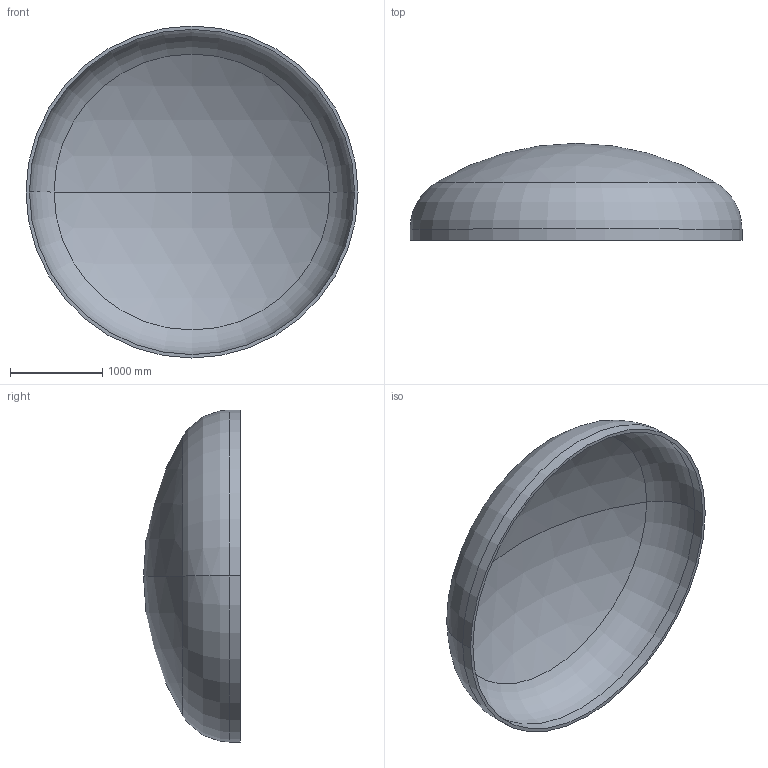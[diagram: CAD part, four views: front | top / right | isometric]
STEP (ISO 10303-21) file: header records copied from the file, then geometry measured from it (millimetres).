
FILE_DESCRIPTION (( 'STEP AP203' ), '1' );
FILE_NAME ('DIN 28013 Korbbogenform_-_Boden DIN 28013 - 3600 x 120 - I - s=37.step', '2016-07-01T20:22:38', ( '' ), ( '' ), 'SwSTEP 2.0', 'SolidWorks 2013', '' );
FILE_SCHEMA (( 'CONFIG_CONTROL_DESIGN' ));
Length unit declared in the file: millimetre
Products named in the file (1): DIN 28013 Korbbogenform_-_Boden DIN 28013 - 3600 x 120 - I - s=37
Bounding box: 3600 x 1050.45 x 3600 mm (x, y, z)
Volume: 564371806 mm3; surface area: 30923599.5 mm2
Topology: 1 solids, 1 shells, 13 faces, 24 edges, 14 vertices
Faces by surface type: torus 4, cylinder 4, sphere 4, plane 1
Entity records: 407 total; most frequent: DIRECTION 72, CARTESIAN_POINT 52, ORIENTED_EDGE 48, AXIS2_PLACEMENT_3D 34, EDGE_CURVE 24, CIRCLE 20, EDGE_LOOP 14, VERTEX_POINT 14
